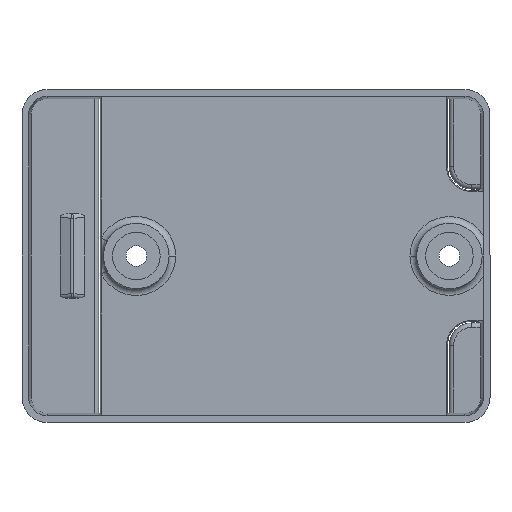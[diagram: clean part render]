
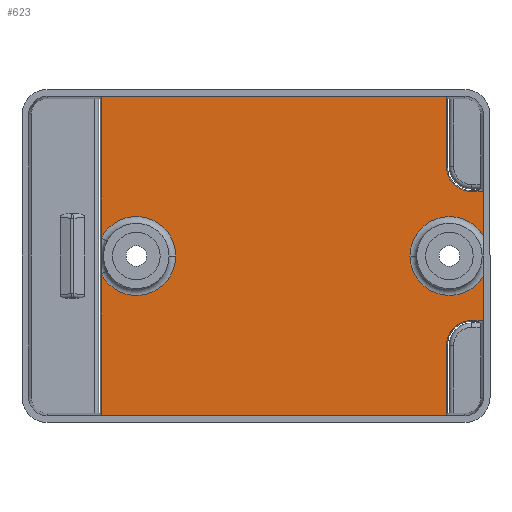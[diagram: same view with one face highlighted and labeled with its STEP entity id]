
A CAD part, front view. The second image highlights one B-rep face of the part: STEP entity #623.
In plain terms, the highlighted planar face has unit normal (0, -1, 0).
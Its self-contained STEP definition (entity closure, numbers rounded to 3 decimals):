
#185 = CARTESIAN_POINT ( 'NONE',  ( 57.947, -28.9, 0. ) ) ;
#278 = DIRECTION ( 'NONE',  ( -1., 0., 0. ) ) ;
#301 = VERTEX_POINT ( 'NONE', #5409 ) ;
#330 = ORIENTED_EDGE ( 'NONE', *, *, #1154, .T. ) ;
#402 = CARTESIAN_POINT ( 'NONE',  ( 57.947, -28.9, 14.397 ) ) ;
#408 = ORIENTED_EDGE ( 'NONE', *, *, #2642, .F. ) ;
#515 = DIRECTION ( 'NONE',  ( -1., 0., 0. ) ) ;
#523 = LINE ( 'NONE', #2278, #3348 ) ;
#539 = PLANE ( 'NONE',  #5490 ) ;
#569 = CARTESIAN_POINT ( 'NONE',  ( -19.63, -28.9, 0. ) ) ;
#578 = ORIENTED_EDGE ( 'NONE', *, *, #642, .F. ) ;
#623 = ADVANCED_FACE ( 'NONE', ( #1405 ), #539, .T. ) ;
#642 = EDGE_CURVE ( 'NONE', #5803, #1711, #5578, .T. ) ;
#703 = LINE ( 'NONE', #1677, #2266 ) ;
#709 = CARTESIAN_POINT ( 'NONE',  ( 49.741, -28.9, 31.604 ) ) ;
#768 = EDGE_CURVE ( 'NONE', #3131, #2328, #5433, .T. ) ;
#780 = CIRCLE ( 'NONE', #2054, 5.603 ) ;
#787 = VERTEX_POINT ( 'NONE', #5363 ) ;
#901 = CIRCLE ( 'NONE', #5456, 8.814 ) ;
#912 = CARTESIAN_POINT ( 'NONE',  ( 50.37, -28.9, 0. ) ) ;
#979 = DIRECTION ( 'NONE',  ( 0., 1., 0. ) ) ;
#1101 = CARTESIAN_POINT ( 'NONE',  ( -27.502, -28.9, 3.966 ) ) ;
#1110 = AXIS2_PLACEMENT_3D ( 'NONE', #3358, #3400, #2507 ) ;
#1154 = EDGE_CURVE ( 'NONE', #1238, #2637, #901, .T. ) ;
#1182 = VECTOR ( 'NONE', #3061, 1000. ) ;
#1238 = VERTEX_POINT ( 'NONE', #5763 ) ;
#1280 = EDGE_CURVE ( 'NONE', #1711, #4857, #2616, .T. ) ;
#1382 = DIRECTION ( 'NONE',  ( 0., 1., 0. ) ) ;
#1405 = FACE_OUTER_BOUND ( 'NONE', #4199, .T. ) ;
#1472 = CIRCLE ( 'NONE', #4762, 8.814 ) ;
#1593 = EDGE_CURVE ( 'NONE', #4669, #4495, #523, .T. ) ;
#1677 = CARTESIAN_POINT ( 'NONE',  ( 0., -28.9, -35.707 ) ) ;
#1711 = VERTEX_POINT ( 'NONE', #4702 ) ;
#1941 = DIRECTION ( 'NONE',  ( 1., 0., 0. ) ) ;
#1959 = DIRECTION ( 'NONE',  ( 0., 1., 0. ) ) ;
#1966 = EDGE_CURVE ( 'NONE', #787, #4669, #5893, .T. ) ;
#2051 = CARTESIAN_POINT ( 'NONE',  ( -27.502, -28.9, 31.604 ) ) ;
#2053 = DIRECTION ( 'NONE',  ( -1., 0., 0. ) ) ;
#2054 = AXIS2_PLACEMENT_3D ( 'NONE', #3287, #6134, #3265 ) ;
#2136 = ORIENTED_EDGE ( 'NONE', *, *, #1280, .F. ) ;
#2266 = VECTOR ( 'NONE', #278, 1000. ) ;
#2278 = CARTESIAN_POINT ( 'NONE',  ( -27.502, -28.9, 31.604 ) ) ;
#2319 = CARTESIAN_POINT ( 'NONE',  ( 57.947, -28.9, -14.397 ) ) ;
#2328 = VERTEX_POINT ( 'NONE', #1101 ) ;
#2339 = LINE ( 'NONE', #3640, #3597 ) ;
#2440 = EDGE_CURVE ( 'NONE', #301, #4554, #5949, .T. ) ;
#2487 = CARTESIAN_POINT ( 'NONE',  ( 53.844, -28.9, -14.397 ) ) ;
#2502 = VECTOR ( 'NONE', #4135, 1000. ) ;
#2507 = DIRECTION ( 'NONE',  ( 1., 0., 0. ) ) ;
#2570 = CARTESIAN_POINT ( 'NONE',  ( 53.844, -28.9, 14.397 ) ) ;
#2580 = CARTESIAN_POINT ( 'NONE',  ( 55.344, -28.9, -14.397 ) ) ;
#2616 = LINE ( 'NONE', #2885, #3273 ) ;
#2637 = VERTEX_POINT ( 'NONE', #6073 ) ;
#2642 = EDGE_CURVE ( 'NONE', #5450, #2637, #5168, .T. ) ;
#2711 = EDGE_CURVE ( 'NONE', #5443, #4554, #780, .T. ) ;
#2781 = CARTESIAN_POINT ( 'NONE',  ( -27.502, -28.9, -35.707 ) ) ;
#2856 = ORIENTED_EDGE ( 'NONE', *, *, #4784, .F. ) ;
#2885 = CARTESIAN_POINT ( 'NONE',  ( 49.741, -28.9, 31.604 ) ) ;
#2910 = DIRECTION ( 'NONE',  ( 0., 0., -1. ) ) ;
#2931 = AXIS2_PLACEMENT_3D ( 'NONE', #5782, #979, #3902 ) ;
#3061 = DIRECTION ( 'NONE',  ( 0., 0., -1. ) ) ;
#3131 = VERTEX_POINT ( 'NONE', #3241 ) ;
#3143 = CARTESIAN_POINT ( 'NONE',  ( 49.741, -28.9, -35.707 ) ) ;
#3157 = EDGE_CURVE ( 'NONE', #301, #3131, #2339, .T. ) ;
#3190 = VERTEX_POINT ( 'NONE', #2319 ) ;
#3234 = CARTESIAN_POINT ( 'NONE',  ( 49.741, -28.9, 20. ) ) ;
#3237 = CARTESIAN_POINT ( 'NONE',  ( 55.344, -28.9, 14.397 ) ) ;
#3241 = CARTESIAN_POINT ( 'NONE',  ( -27.502, -28.9, 35.707 ) ) ;
#3250 = VECTOR ( 'NONE', #4031, 1000. ) ;
#3256 = VECTOR ( 'NONE', #5906, 1000. ) ;
#3265 = DIRECTION ( 'NONE',  ( 1., 0., 0. ) ) ;
#3273 = VECTOR ( 'NONE', #2910, 1000. ) ;
#3287 = CARTESIAN_POINT ( 'NONE',  ( 55.344, -28.9, 20. ) ) ;
#3320 = LINE ( 'NONE', #2487, #4292 ) ;
#3348 = VECTOR ( 'NONE', #4080, 1000. ) ;
#3358 = CARTESIAN_POINT ( 'NONE',  ( 55.344, -28.9, -20. ) ) ;
#3390 = LINE ( 'NONE', #2570, #4819 ) ;
#3400 = DIRECTION ( 'NONE',  ( 0., -1., 0. ) ) ;
#3411 = CARTESIAN_POINT ( 'NONE',  ( 57.947, -28.9, -4.503 ) ) ;
#3438 = DIRECTION ( 'NONE',  ( 0., 1., 0. ) ) ;
#3597 = VECTOR ( 'NONE', #6106, 1000. ) ;
#3606 = ORIENTED_EDGE ( 'NONE', *, *, #2440, .F. ) ;
#3640 = CARTESIAN_POINT ( 'NONE',  ( 0., -28.9, 35.707 ) ) ;
#3644 = VERTEX_POINT ( 'NONE', #3411 ) ;
#3653 = EDGE_CURVE ( 'NONE', #2328, #787, #3731, .T. ) ;
#3665 = CARTESIAN_POINT ( 'NONE',  ( 57.947, -28.9, 0. ) ) ;
#3731 = CIRCLE ( 'NONE', #4036, 8.814 ) ;
#3772 = ORIENTED_EDGE ( 'NONE', *, *, #1593, .T. ) ;
#3788 = EDGE_CURVE ( 'NONE', #4857, #4495, #703, .T. ) ;
#3849 = CARTESIAN_POINT ( 'NONE',  ( -27.502, -28.9, -3.966 ) ) ;
#3879 = ORIENTED_EDGE ( 'NONE', *, *, #5995, .F. ) ;
#3881 = ORIENTED_EDGE ( 'NONE', *, *, #3157, .T. ) ;
#3902 = DIRECTION ( 'NONE',  ( 1., 0., 0. ) ) ;
#3919 = DIRECTION ( 'NONE',  ( 1., 0., 0. ) ) ;
#4005 = ORIENTED_EDGE ( 'NONE', *, *, #768, .T. ) ;
#4031 = DIRECTION ( 'NONE',  ( 0., 0., -1. ) ) ;
#4036 = AXIS2_PLACEMENT_3D ( 'NONE', #569, #3438, #3919 ) ;
#4080 = DIRECTION ( 'NONE',  ( 0., 0., -1. ) ) ;
#4135 = DIRECTION ( 'NONE',  ( 0., 0., -1. ) ) ;
#4199 = EDGE_LOOP ( 'NONE', ( #2856, #4881, #330, #408, #6126, #5366, #3606, #3881, #4005, #5017, #4513, #3772, #6130, #2136, #578, #3879 ) ) ;
#4292 = VECTOR ( 'NONE', #515, 1000. ) ;
#4364 = CARTESIAN_POINT ( 'NONE',  ( 50.37, -28.9, 0. ) ) ;
#4388 = DIRECTION ( 'NONE',  ( 1., 0., 0. ) ) ;
#4495 = VERTEX_POINT ( 'NONE', #2781 ) ;
#4513 = ORIENTED_EDGE ( 'NONE', *, *, #1966, .T. ) ;
#4554 = VERTEX_POINT ( 'NONE', #3234 ) ;
#4669 = VERTEX_POINT ( 'NONE', #3849 ) ;
#4702 = CARTESIAN_POINT ( 'NONE',  ( 49.741, -28.9, -20. ) ) ;
#4762 = AXIS2_PLACEMENT_3D ( 'NONE', #912, #1382, #5765 ) ;
#4784 = EDGE_CURVE ( 'NONE', #3644, #3190, #5500, .T. ) ;
#4819 = VECTOR ( 'NONE', #2053, 1000. ) ;
#4857 = VERTEX_POINT ( 'NONE', #3143 ) ;
#4881 = ORIENTED_EDGE ( 'NONE', *, *, #5584, .T. ) ;
#5017 = ORIENTED_EDGE ( 'NONE', *, *, #3653, .T. ) ;
#5168 = LINE ( 'NONE', #3665, #2502 ) ;
#5258 = DIRECTION ( 'NONE',  ( 0., -1., 0. ) ) ;
#5281 = CARTESIAN_POINT ( 'NONE',  ( 0., -28.9, 0. ) ) ;
#5363 = CARTESIAN_POINT ( 'NONE',  ( -10.816, -28.9, 0. ) ) ;
#5366 = ORIENTED_EDGE ( 'NONE', *, *, #2711, .T. ) ;
#5409 = CARTESIAN_POINT ( 'NONE',  ( 49.741, -28.9, 35.707 ) ) ;
#5433 = LINE ( 'NONE', #2051, #1182 ) ;
#5443 = VERTEX_POINT ( 'NONE', #3237 ) ;
#5450 = VERTEX_POINT ( 'NONE', #402 ) ;
#5456 = AXIS2_PLACEMENT_3D ( 'NONE', #4364, #1959, #4388 ) ;
#5490 = AXIS2_PLACEMENT_3D ( 'NONE', #5281, #5258, #1941 ) ;
#5500 = LINE ( 'NONE', #185, #3256 ) ;
#5578 = CIRCLE ( 'NONE', #1110, 5.603 ) ;
#5584 = EDGE_CURVE ( 'NONE', #3644, #1238, #1472, .T. ) ;
#5763 = CARTESIAN_POINT ( 'NONE',  ( 41.556, -28.9, 0. ) ) ;
#5765 = DIRECTION ( 'NONE',  ( 1., 0., 0. ) ) ;
#5782 = CARTESIAN_POINT ( 'NONE',  ( -19.63, -28.9, 0. ) ) ;
#5803 = VERTEX_POINT ( 'NONE', #2580 ) ;
#5893 = CIRCLE ( 'NONE', #2931, 8.814 ) ;
#5906 = DIRECTION ( 'NONE',  ( 0., 0., -1. ) ) ;
#5949 = LINE ( 'NONE', #709, #3250 ) ;
#5995 = EDGE_CURVE ( 'NONE', #3190, #5803, #3320, .T. ) ;
#6073 = CARTESIAN_POINT ( 'NONE',  ( 57.947, -28.9, 4.503 ) ) ;
#6074 = EDGE_CURVE ( 'NONE', #5450, #5443, #3390, .T. ) ;
#6106 = DIRECTION ( 'NONE',  ( -1., 0., 0. ) ) ;
#6126 = ORIENTED_EDGE ( 'NONE', *, *, #6074, .T. ) ;
#6130 = ORIENTED_EDGE ( 'NONE', *, *, #3788, .F. ) ;
#6134 = DIRECTION ( 'NONE',  ( 0., 1., 0. ) ) ;
